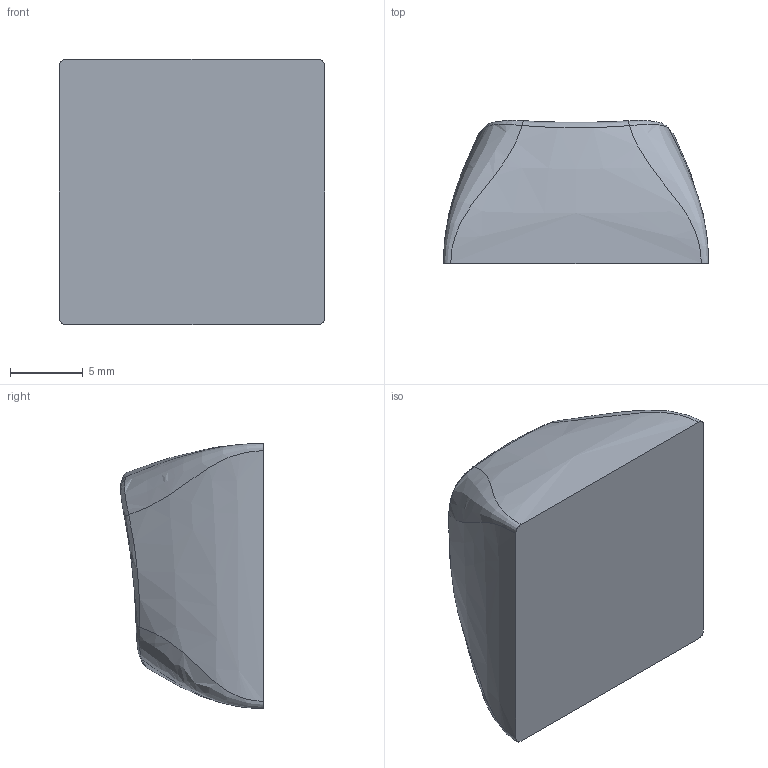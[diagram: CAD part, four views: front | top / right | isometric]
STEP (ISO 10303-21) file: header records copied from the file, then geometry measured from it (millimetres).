
FILE_DESCRIPTION (( 'STEP AP203' ), '1' );
FILE_NAME ('R1_1U_base_v3.2_GMK.STEP', '2023-03-07T11:56:20', ( '' ), ( '' ), 'SwSTEP 2.0', 'SolidWorks 2022', '' );
FILE_SCHEMA (( 'CONFIG_CONTROL_DESIGN' ));
Length unit declared in the file: millimetre
Products named in the file (1): R1_1U_base_v3.2_GMK
Bounding box: 18.2 x 9.81 x 18.2 mm (x, y, z)
Volume: 2358 mm3; surface area: 1086.3 mm2
Topology: 1 solids, 1 shells, 18 faces, 40 edges, 24 vertices
Faces by surface type: bspline 17, plane 1
Entity records: 2515 total; most frequent: CARTESIAN_POINT 2180, ORIENTED_EDGE 80, EDGE_CURVE 40, B_SPLINE_CURVE_WITH_KNOTS 40, VERTEX_POINT 24, FACE_OUTER_BOUND 18, EDGE_LOOP 18, ADVANCED_FACE 18
